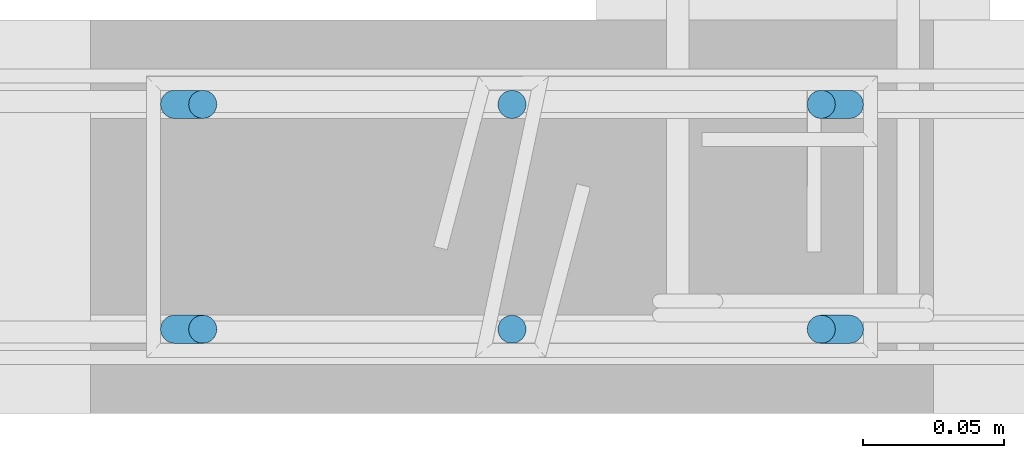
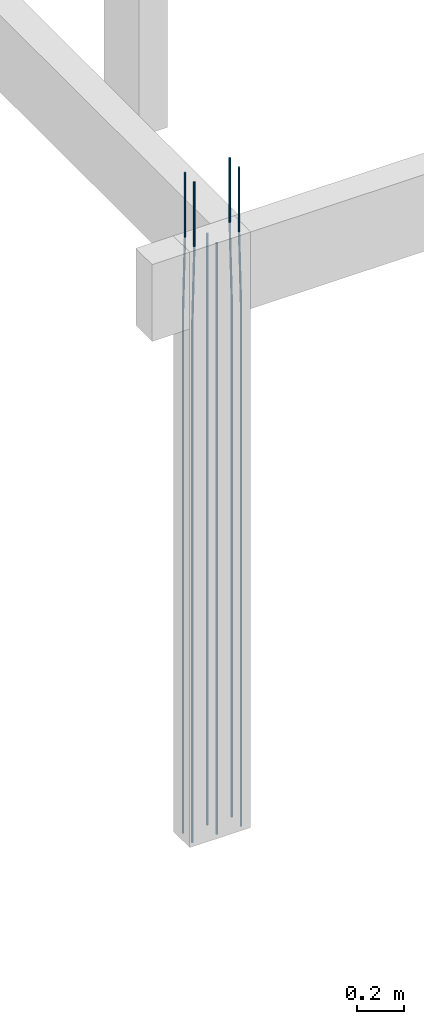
# One storey, part 9 of 236: 6 reinforcing bars.
"""IFC4 building model written with IfcOpenShell, lengths in centimetres."""

from ifc_helpers import new_model, entity, si_unit, derived_unit, frame, origin_with_axes, place, context, project, spatial, element, save


model = new_model("IFC4")

# Units and contexts
model_context = context("Model", 3, precision=1e-05, world=origin_with_axes(), identifier="Body")
ifc_project = project(units=[si_unit("LENGTHUNIT", "METRE", prefix="CENTI"), si_unit("VOLUMEUNIT", "CUBIC_METRE"), si_unit("AREAUNIT", "SQUARE_METRE"), si_unit("POWERUNIT", "WATT"), si_unit("LUMINOUSFLUXUNIT", "LUMEN"), si_unit("ELECTRICCURRENTUNIT", "AMPERE"), si_unit("PRESSUREUNIT", "PASCAL", prefix="KILO"), si_unit("MASSUNIT", "GRAM", prefix="KILO"), si_unit("PLANEANGLEUNIT", "RADIAN"), derived_unit("VOLUMETRICFLOWRATEUNIT", [(si_unit("LENGTHUNIT", "METRE"), 3), (si_unit("TIMEUNIT", "SECOND"), -1)])], contexts=[model_context])

# Site, building, storey
site_placement = place(None, frame((-4000.0, 0.0, 0.0), z_axis=(0.0, 0.0, 1.0), x_axis=(1.0, 0.0, 0.0)))
site = spatial("IfcSite", under=ifc_project, at=site_placement, Name="PADRÃO")
building_placement = place(site_placement, frame((0.0, 0.0, -14.0)))
building = spatial("IfcBuilding", under=site, at=building_placement, Name="CRECHE PRÉ-ESCOLA TIPO 2")
placement_1 = place(building_placement, origin_with_axes())
placement_2 = place(placement_1, frame((0.0, 0.0, 30.0), z_axis=(0.0, 0.0, 1.0), x_axis=(1.0, 0.0, 0.0)))
storey_placement = place(placement_2, frame((0.0, 0.0, 310.0), z_axis=(0.0, 0.0, 1.0), x_axis=(1.0, 0.0, 0.0)))
storey = spatial("IfcBuildingStorey", under=building, at=storey_placement, Name="TERREO", CompositionType="ELEMENT", Elevation=326.0)

# Reinforcing bars
reinforcing_bar_1_placement = place(storey_placement, frame((266.0, 519.0, -2.0), z_axis=(0.0, 0.0, 1.0), x_axis=(1.0, 0.0, 0.0)))
element("IfcReinforcingBar", 1, at=reinforcing_bar_1_placement, inside=storey, Name="P135 - Longitudinal", BarLength=0.0, CrossSectionArea=7.853981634e-05, NominalDiameter=1.0, PredefinedType="MAIN", context=model_context, shape_type="AdvancedSweptSolid", body=[
    entity("IfcSweptDiskSolid", entity("IfcCompositeCurve", [entity("IfcCompositeCurveSegment", "CONTINUOUS", True, entity("IfcPolyline", [entity("IfcCartesianPoint", [0.0, 0.0, -308.0]), entity("IfcCartesianPoint", [0.0, 0.0, 0.0])]))], False), 0.5),
])
for number, where, z_axis, x_axis, name in (
    (2, (254.5, 519.0, 33.3573001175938), (0.0, 0.0, 1.0), (1.0, 0.0, 0.0), "P135 - Longitudinal"),
    (3, (254.5, 511.0, 33.3573001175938), (0.0, 0.0, 1.0), (1.0, 0.0, 0.0), "P135 - Longitudinal"),
):
    element("IfcReinforcingBar", number, at=place(storey_placement, frame(where, z_axis=z_axis, x_axis=x_axis)), inside=storey, Name=name, BarLength=0.0, CrossSectionArea=7.853981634e-05, NominalDiameter=1.0, PredefinedType="MAIN", context=model_context, shape_type="AdvancedSweptSolid", body=[
        entity("IfcSweptDiskSolid", entity("IfcCompositeCurve", [entity("IfcCompositeCurveSegment", "CONTINUOUS", True, entity("IfcPolyline", [entity("IfcCartesianPoint", [-0.5, 0.0, -343.357300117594]), entity("IfcCartesianPoint", [-0.5, 0.0, -73.3573001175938])])), entity("IfcCompositeCurveSegment", "CONTINUOUS", True, entity("IfcPolyline", [entity("IfcCartesianPoint", [-0.5, 0.0, -73.3573001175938]), entity("IfcCartesianPoint", [0.5, 0.0, -33.3573001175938])])), entity("IfcCompositeCurveSegment", "CONTINUOUS", True, entity("IfcPolyline", [entity("IfcCartesianPoint", [0.5, 0.0, -33.3573001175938]), entity("IfcCartesianPoint", [0.5, 0.0, 0.0])]))], False), 0.5),
    ])
reinforcing_bar_2_placement = place(storey_placement, frame((266.0, 511.0, -2.0), z_axis=(0.0, 0.0, 1.0), x_axis=(1.0, 0.0, 0.0)))
element("IfcReinforcingBar", 4, at=reinforcing_bar_2_placement, inside=storey, Name="P135 - Longitudinal", BarLength=0.0, CrossSectionArea=7.853981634e-05, NominalDiameter=1.0, PredefinedType="MAIN", context=model_context, shape_type="AdvancedSweptSolid", body=[
    entity("IfcSweptDiskSolid", entity("IfcCompositeCurve", [entity("IfcCompositeCurveSegment", "CONTINUOUS", True, entity("IfcPolyline", [entity("IfcCartesianPoint", [0.0, 0.0, -308.0]), entity("IfcCartesianPoint", [0.0, 0.0, 0.0])]))], False), 0.5),
])
for number, where, z_axis, x_axis, name in (
    (5, (277.5, 519.0, 33.3573001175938), (0.0, 0.0, 1.0), (1.0, 0.0, 0.0), "P135 - Longitudinal"),
    (6, (277.5, 511.0, 33.3573001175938), (0.0, 0.0, 1.0), (1.0, 0.0, 0.0), "P135 - Longitudinal"),
):
    element("IfcReinforcingBar", number, at=place(storey_placement, frame(where, z_axis=z_axis, x_axis=x_axis)), inside=storey, Name=name, BarLength=0.0, CrossSectionArea=7.853981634e-05, NominalDiameter=1.0, PredefinedType="MAIN", context=model_context, shape_type="AdvancedSweptSolid", body=[
        entity("IfcSweptDiskSolid", entity("IfcCompositeCurve", [entity("IfcCompositeCurveSegment", "CONTINUOUS", True, entity("IfcPolyline", [entity("IfcCartesianPoint", [0.5, 0.0, -343.357300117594]), entity("IfcCartesianPoint", [0.5, 0.0, -73.3573001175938])])), entity("IfcCompositeCurveSegment", "CONTINUOUS", True, entity("IfcPolyline", [entity("IfcCartesianPoint", [0.5, 0.0, -73.3573001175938]), entity("IfcCartesianPoint", [-0.5, 0.0, -33.3573001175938])])), entity("IfcCompositeCurveSegment", "CONTINUOUS", True, entity("IfcPolyline", [entity("IfcCartesianPoint", [-0.5, 0.0, -33.3573001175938]), entity("IfcCartesianPoint", [-0.5, 0.0, 0.0])]))], False), 0.5),
    ])

save(model, "model.ifc")
